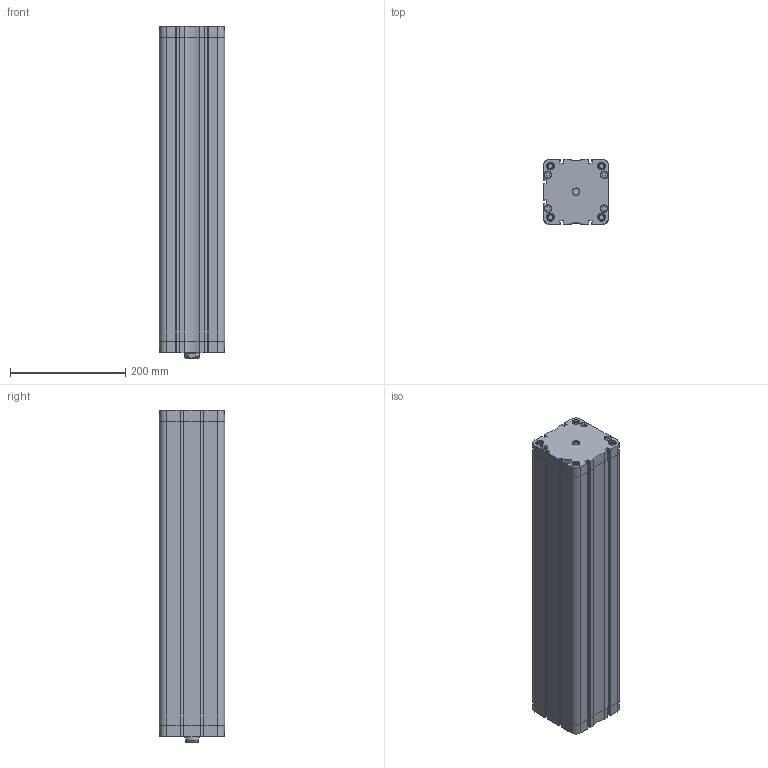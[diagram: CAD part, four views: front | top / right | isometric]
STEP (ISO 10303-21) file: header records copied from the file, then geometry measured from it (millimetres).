
FILE_DESCRIPTION(/* description */ ('Unknown'),/* implementation_level */ '2;1');
FILE_NAME(/* name */ 'ZIN 100_500',/* time_stamp */ '2024-11-12T08:25:26+01:00',/* author */ ('Unknown'),/* organization */ ('HAFNER Pneumatika Kft.'),/* preprocessor_version */ 'ST-DEVELOPER v18.102',/* originating_system */ 'Solid Edge',/* authorisation */ 'Unknown');
FILE_SCHEMA (('AUTOMOTIVE_DESIGN {1 0 10303 214 3 1 1}'));
Length unit declared in the file: millimetre
Products named in the file (5): ZIN 100_500; Kit_1; Profilrohr; Kolbenstange; Kit_2
Assembly tree (4 placements, depth 2):
  ZIN 100_500
    Kit_1
    Profilrohr
    Kolbenstange
    Kit_2
Bounding box: 113.5 x 113.5 x 577 mm (x, y, z)
Volume: 3337948.1 mm3; surface area: 600054.9 mm2
Topology: 4 solids, 4 shells, 742 faces, 1989 edges, 1321 vertices
Faces by surface type: plane 352, cylinder 215, bspline 114, cone 41, torus 20
Full cylindrical faces by diameter (mm): 8.376 x8, 8.566 x2, 10.106 x2, 12 x1, 12.7 x4, 13.1 x8, 13.5 x8, 25 x1, 25.6 x1, 26.9 x1, 28 x1, 29.8 x1, 30 x1, 100 x2
Entity records: 28106 total; most frequent: CARTESIAN_POINT 5914, ORIENTED_EDGE 3740, DIRECTION 3380, EDGE_CURVE 1870, VERTEX_POINT 1286, AXIS2_PLACEMENT_3D 1139, LINE 1102, VECTOR 1102
